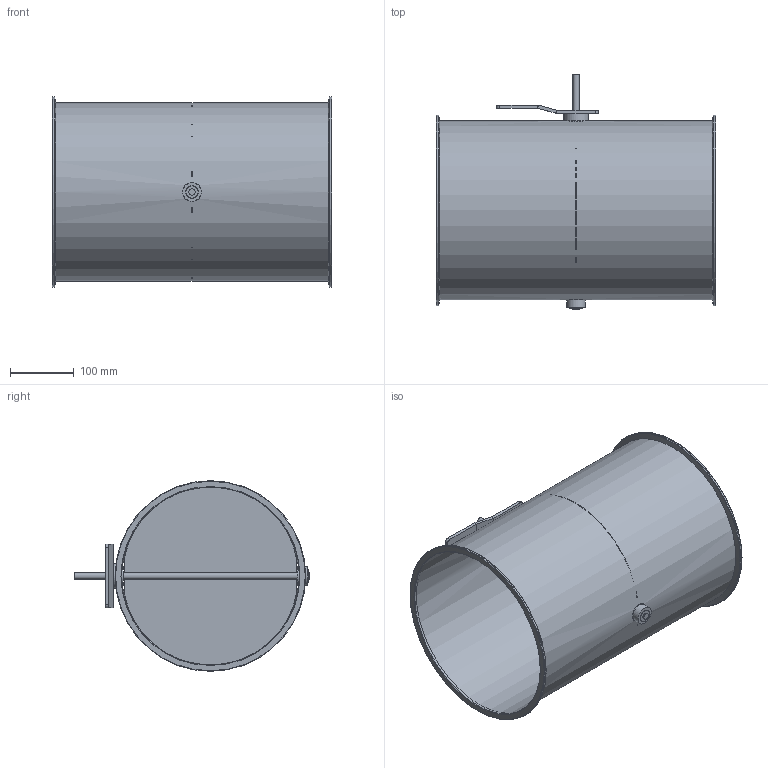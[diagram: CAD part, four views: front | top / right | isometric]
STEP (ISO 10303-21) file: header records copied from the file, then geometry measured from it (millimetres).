
FILE_DESCRIPTION(/* description */ (''),/* implementation_level */ '2;1');
FILE_NAME(/* name */ 'EA104-80B__280_L440_Belimo_Typ_SM.stp',/* time_stamp */ '2017-12-06T15:03:54+01:00',/* author */ (''),/* organization */ (''),/* preprocessor_version */ 'ST-DEVELOPER v11',/* originating_system */ 'SIEMENS UGS NX 6.0',/* authorisation */ '');
FILE_SCHEMA (('CONFIG_CONTROL_DESIGN'));
Length unit declared in the file: millimetre
Products named in the file (1): gars18E2j2av
Bounding box: 440 x 370 x 300 mm (x, y, z)
Volume: 581762.9 mm3; surface area: 988360.6 mm2
Topology: 8 solids, 8 shells, 76 faces, 158 edges, 100 vertices
Faces by surface type: plane 36, cylinder 32, torus 6, cone 2
Full cylindrical faces by diameter (mm): 4.1 x4, 10 x3, 19 x3, 19.85 x2, 20 x2, 29 x1, 30 x2, 39 x1, 280 x1, 281.6 x1, 300 x2
Entity records: 1960 total; most frequent: CARTESIAN_POINT 353, DIRECTION 334, ORIENTED_EDGE 236, AXIS2_PLACEMENT_3D 143, EDGE_LOOP 132, EDGE_CURVE 118, FACE_BOUND 102, VERTEX_POINT 90
